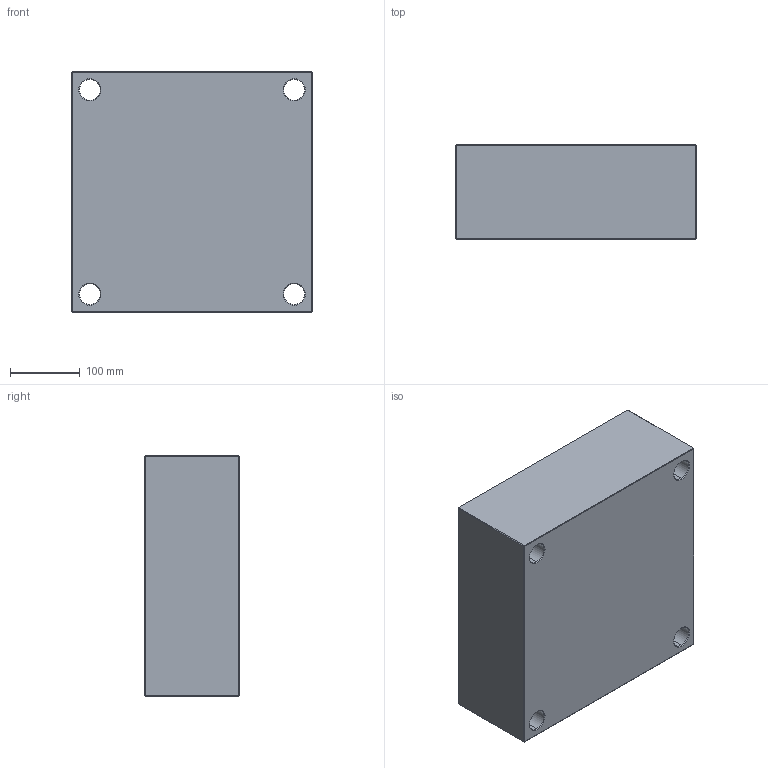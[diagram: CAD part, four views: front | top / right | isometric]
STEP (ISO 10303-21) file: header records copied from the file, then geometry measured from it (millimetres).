
FILE_DESCRIPTION (( 'STEP AP214' ), '1' );
FILE_NAME ('PC-346x346x136.STEP', '2020-04-21T16:49:59', ( 'August' ), ( '' ), 'SwSTEP 2.0', 'SolidWorks 2018', '' );
FILE_SCHEMA (( 'AUTOMOTIVE_DESIGN' ));
Length unit declared in the file: millimetre
Products named in the file (1): PC-346x346x136
Bounding box: 346 x 136 x 346 mm (x, y, z)
Volume: 15875996.7 mm3; surface area: 474864.4 mm2
Topology: 1 solids, 1 shells, 82 faces, 168 edges, 96 vertices
Faces by surface type: plane 34, cone 24, cylinder 24
Entity records: 2170 total; most frequent: DIRECTION 406, CARTESIAN_POINT 347, ORIENTED_EDGE 336, EDGE_CURVE 168, AXIS2_PLACEMENT_3D 155, EDGE_LOOP 98, VERTEX_POINT 96, VECTOR 96
